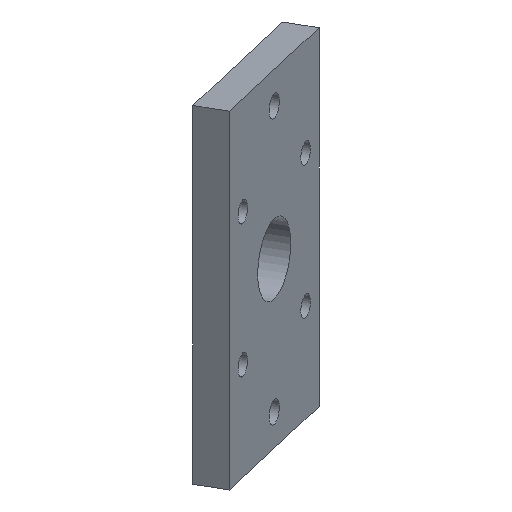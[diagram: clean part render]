
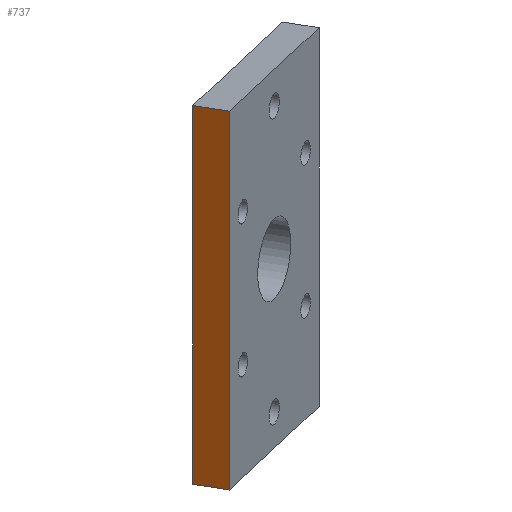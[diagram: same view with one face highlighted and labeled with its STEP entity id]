
A CAD part, left-side view. The second image highlights one B-rep face of the part: STEP entity #737.
In plain terms, the highlighted planar face has unit normal (-0.855, 0.38, -0.353).
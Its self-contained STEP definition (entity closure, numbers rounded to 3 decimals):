
#44 = PLANE('',#45);
#45 = AXIS2_PLACEMENT_3D('',#46,#47,#48);
#46 = CARTESIAN_POINT('',(77.291,359.342,
    60.06));
#47 = DIRECTION('',(0.382,0.,-0.924));
#48 = DIRECTION('',(0.855,-0.38,0.353));
#72 = PLANE('',#73);
#73 = AXIS2_PLACEMENT_3D('',#74,#75,#76);
#74 = CARTESIAN_POINT('',(101.798,358.27,
    42.053));
#75 = DIRECTION('',(0.351,0.925,0.145));
#76 = DIRECTION('',(0.935,-0.355,0.)
  );
#100 = PLANE('',#101);
#101 = AXIS2_PLACEMENT_3D('',#102,#103,#104);
#102 = CARTESIAN_POINT('',(122.794,347.948,
    22.596));
#103 = DIRECTION('',(-0.382,0.,0.924));
#104 = DIRECTION('',(-0.855,0.38,-0.353));
#126 = PLANE('',#127);
#127 = AXIS2_PLACEMENT_3D('',#128,#129,#130);
#128 = CARTESIAN_POINT('',(100.042,353.645,
    41.328));
#129 = DIRECTION('',(0.351,0.925,0.145));
#130 = DIRECTION('',(0.935,-0.355,0.)
  );
#141 = EDGE_CURVE('',#142,#144,#146,.T.);
#142 = VERTEX_POINT('',#143);
#143 = CARTESIAN_POINT('',(77.291,359.342,
    60.06));
#144 = VERTEX_POINT('',#145);
#145 = CARTESIAN_POINT('',(79.046,363.967,
    60.785));
#146 = SURFACE_CURVE('',#147,(#151,#158),.PCURVE_S1.);
#147 = LINE('',#148,#149);
#148 = CARTESIAN_POINT('',(77.291,359.342,
    60.06));
#149 = VECTOR('',#150,1.);
#150 = DIRECTION('',(0.351,0.925,0.145));
#151 = PCURVE('',#44,#152);
#152 = DEFINITIONAL_REPRESENTATION('',(#153),#157);
#153 = LINE('',#154,#155);
#154 = CARTESIAN_POINT('',(0.,-0.));
#155 = VECTOR('',#156,1.);
#156 = DIRECTION('',(0.,-1.));
#157 = ( GEOMETRIC_REPRESENTATION_CONTEXT(2) 
PARAMETRIC_REPRESENTATION_CONTEXT() REPRESENTATION_CONTEXT('2D SPACE',''
  ) );
#158 = PCURVE('',#159,#164);
#159 = PLANE('',#160);
#160 = AXIS2_PLACEMENT_3D('',#161,#162,#163);
#161 = CARTESIAN_POINT('',(97.145,359.342,
    12.));
#162 = DIRECTION('',(0.855,-0.38,0.353));
#163 = DIRECTION('',(-0.382,0.,0.924));
#164 = DEFINITIONAL_REPRESENTATION('',(#165),#169);
#165 = LINE('',#166,#167);
#166 = CARTESIAN_POINT('',(52.,0.));
#167 = VECTOR('',#168,1.);
#168 = DIRECTION('',(0.,-1.));
#169 = ( GEOMETRIC_REPRESENTATION_CONTEXT(2) 
PARAMETRIC_REPRESENTATION_CONTEXT() REPRESENTATION_CONTEXT('2D SPACE',''
  ) );
#219 = VERTEX_POINT('',#220);
#220 = CARTESIAN_POINT('',(98.9,363.967,
    12.725));
#241 = EDGE_CURVE('',#242,#219,#244,.T.);
#242 = VERTEX_POINT('',#243);
#243 = CARTESIAN_POINT('',(97.145,359.342,
    12.));
#244 = SURFACE_CURVE('',#245,(#249,#256),.PCURVE_S1.);
#245 = LINE('',#246,#247);
#246 = CARTESIAN_POINT('',(97.145,359.342,
    12.));
#247 = VECTOR('',#248,1.);
#248 = DIRECTION('',(0.351,0.925,0.145));
#249 = PCURVE('',#100,#250);
#250 = DEFINITIONAL_REPRESENTATION('',(#251),#255);
#251 = LINE('',#252,#253);
#252 = CARTESIAN_POINT('',(30.,0.));
#253 = VECTOR('',#254,1.);
#254 = DIRECTION('',(0.,-1.));
#255 = ( GEOMETRIC_REPRESENTATION_CONTEXT(2) 
PARAMETRIC_REPRESENTATION_CONTEXT() REPRESENTATION_CONTEXT('2D SPACE',''
  ) );
#256 = PCURVE('',#159,#257);
#257 = DEFINITIONAL_REPRESENTATION('',(#258),#262);
#258 = LINE('',#259,#260);
#259 = CARTESIAN_POINT('',(0.,-0.));
#260 = VECTOR('',#261,1.);
#261 = DIRECTION('',(0.,-1.));
#262 = ( GEOMETRIC_REPRESENTATION_CONTEXT(2) 
PARAMETRIC_REPRESENTATION_CONTEXT() REPRESENTATION_CONTEXT('2D SPACE',''
  ) );
#290 = EDGE_CURVE('',#242,#142,#291,.T.);
#291 = SURFACE_CURVE('',#292,(#296,#303),.PCURVE_S1.);
#292 = LINE('',#293,#294);
#293 = CARTESIAN_POINT('',(97.145,359.342,
    12.));
#294 = VECTOR('',#295,1.);
#295 = DIRECTION('',(-0.382,0.,0.924));
#296 = PCURVE('',#126,#297);
#297 = DEFINITIONAL_REPRESENTATION('',(#298),#302);
#298 = LINE('',#299,#300);
#299 = CARTESIAN_POINT('',(-4.73,29.642));
#300 = VECTOR('',#301,1.);
#301 = DIRECTION('',(-0.357,-0.934));
#302 = ( GEOMETRIC_REPRESENTATION_CONTEXT(2) 
PARAMETRIC_REPRESENTATION_CONTEXT() REPRESENTATION_CONTEXT('2D SPACE',''
  ) );
#303 = PCURVE('',#159,#304);
#304 = DEFINITIONAL_REPRESENTATION('',(#305),#309);
#305 = LINE('',#306,#307);
#306 = CARTESIAN_POINT('',(0.,-0.));
#307 = VECTOR('',#308,1.);
#308 = DIRECTION('',(1.,0.));
#309 = ( GEOMETRIC_REPRESENTATION_CONTEXT(2) 
PARAMETRIC_REPRESENTATION_CONTEXT() REPRESENTATION_CONTEXT('2D SPACE',''
  ) );
#534 = EDGE_CURVE('',#219,#144,#535,.T.);
#535 = SURFACE_CURVE('',#536,(#540,#547),.PCURVE_S1.);
#536 = LINE('',#537,#538);
#537 = CARTESIAN_POINT('',(98.9,363.967,
    12.725));
#538 = VECTOR('',#539,1.);
#539 = DIRECTION('',(-0.382,0.,0.924));
#540 = PCURVE('',#72,#541);
#541 = DEFINITIONAL_REPRESENTATION('',(#542),#546);
#542 = LINE('',#543,#544);
#543 = CARTESIAN_POINT('',(-4.73,29.642));
#544 = VECTOR('',#545,1.);
#545 = DIRECTION('',(-0.357,-0.934));
#546 = ( GEOMETRIC_REPRESENTATION_CONTEXT(2) 
PARAMETRIC_REPRESENTATION_CONTEXT() REPRESENTATION_CONTEXT('2D SPACE',''
  ) );
#547 = PCURVE('',#159,#548);
#548 = DEFINITIONAL_REPRESENTATION('',(#549),#553);
#549 = LINE('',#550,#551);
#550 = CARTESIAN_POINT('',(0.,-5.));
#551 = VECTOR('',#552,1.);
#552 = DIRECTION('',(1.,0.));
#553 = ( GEOMETRIC_REPRESENTATION_CONTEXT(2) 
PARAMETRIC_REPRESENTATION_CONTEXT() REPRESENTATION_CONTEXT('2D SPACE',''
  ) );
#737 = ADVANCED_FACE('',(#738),#159,.F.);
#738 = FACE_BOUND('',#739,.F.);
#739 = EDGE_LOOP('',(#740,#741,#742,#743));
#740 = ORIENTED_EDGE('',*,*,#241,.T.);
#741 = ORIENTED_EDGE('',*,*,#534,.T.);
#742 = ORIENTED_EDGE('',*,*,#141,.F.);
#743 = ORIENTED_EDGE('',*,*,#290,.F.);
